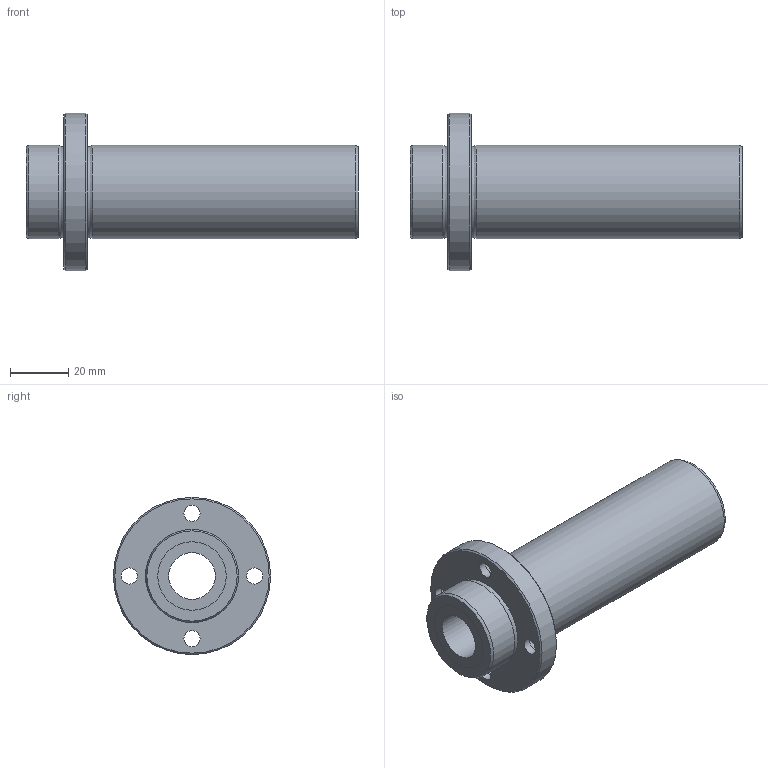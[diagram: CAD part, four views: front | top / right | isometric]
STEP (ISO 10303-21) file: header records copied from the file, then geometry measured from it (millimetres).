
FILE_DESCRIPTION((''),'2;1');
FILE_NAME('D:\製品 (図面)\カタログ用3D\メンテナンスフリー関連\STEP形式\LFLB-MF\LFLB16MF.stp','2010-06-01T15:53:25',('Tsuchiya'),(''),'Autodesk Inventor 10','Autodesk Inventor 10','');
FILE_SCHEMA(('AUTOMOTIVE_DESIGN { 1 0 10303 214 1 1 1 1 }'));
Length unit declared in the file: millimetre
Products named in the file (1): LFLB16MF
Bounding box: 114 x 54 x 54 mm (x, y, z)
Volume: 78810 mm3; surface area: 22409.5 mm2
Topology: 1 solids, 1 shells, 30 faces, 54 edges, 34 vertices
Faces by surface type: bspline 14, cylinder 6, plane 6, cone 2, torus 2
Full cylindrical faces by diameter (mm): 16 x1, 23.5 x2, 32 x2, 54 x1
Entity records: 907 total; most frequent: CARTESIAN_POINT 371, DIRECTION 102, ORIENTED_EDGE 68, EDGE_LOOP 68, AXIS2_PLACEMENT_3D 51, FACE_BOUND 38, VERTEX_POINT 34, CIRCLE 34
